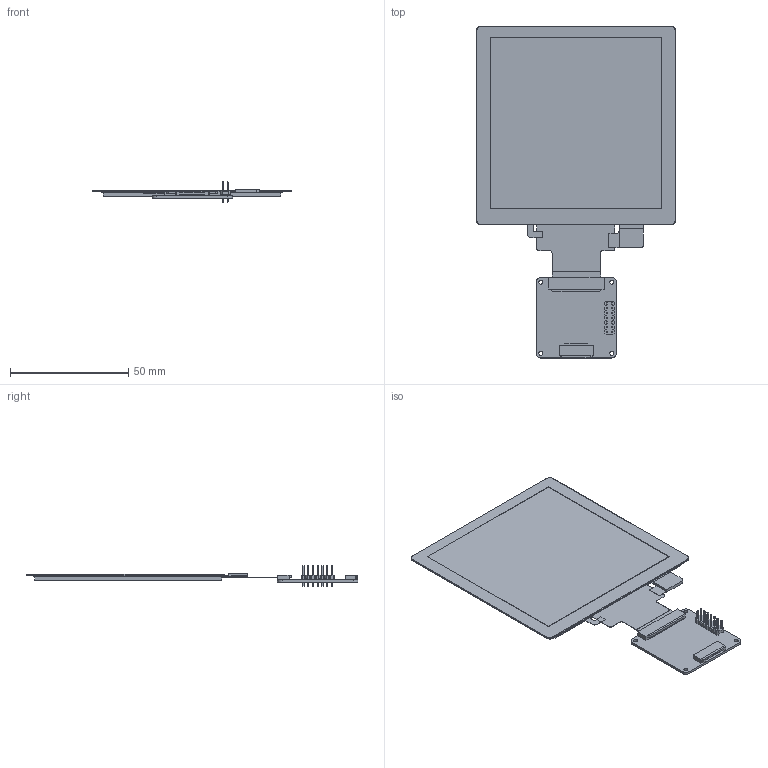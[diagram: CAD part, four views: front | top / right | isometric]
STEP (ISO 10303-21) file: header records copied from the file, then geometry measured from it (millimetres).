
FILE_DESCRIPTION((''),'2;1');
FILE_NAME('TS040HDS02CP-B1620A-V01-241217','2024-12-17T15:34:43',('Shaozi'),(''),'CREO PARAMETRIC BY PTC INC, 2024063','CREO PARAMETRIC BY PTC INC, 2024063','');
FILE_SCHEMA(('AUTOMOTIVE_DESIGN { 1 0 10303 214 1 1 1 1 }'));
Length unit declared in the file: millimetre
Products named in the file (1): TS040HDS02CP-B1620A-V01-241217
Bounding box: 84 x 140.14 x 8.8 mm (x, y, z)
Surface area: 31821.6 mm2 (no closed solid volume)
Topology: 0 solids, 25 shells, 349 faces, 1048 edges, 722 vertices
Faces by surface type: plane 309, cylinder 32, torus 8
Entity records: 13316 total; most frequent: CARTESIAN_POINT 2119, DIRECTION 1818, ORIENTED_EDGE 1800, EDGE_CURVE 1048, VECTOR 976, LINE 976, VERTEX_POINT 722, AXIS2_PLACEMENT_3D 421
